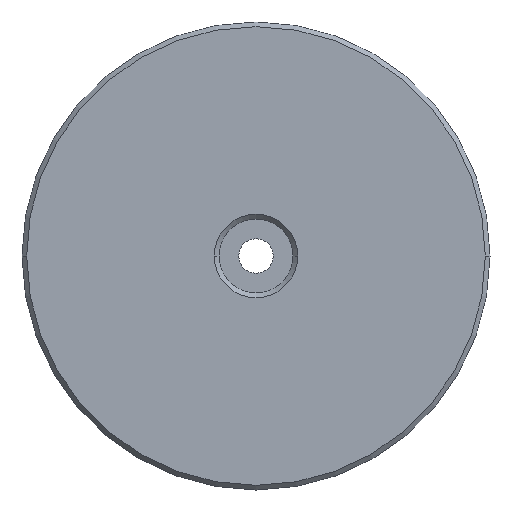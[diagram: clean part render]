
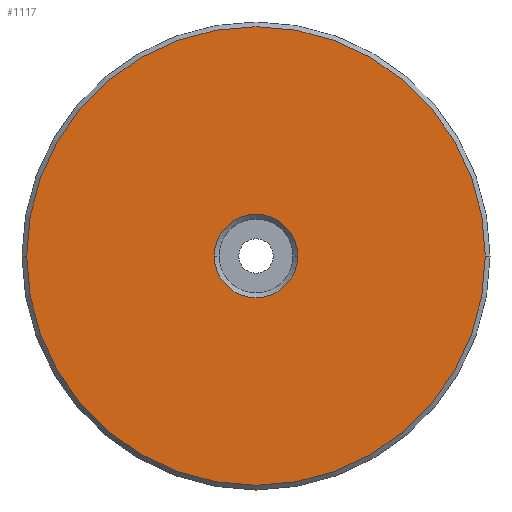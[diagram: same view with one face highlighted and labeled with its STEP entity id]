
A CAD part, front view. The second image highlights one B-rep face of the part: STEP entity #1117.
In plain terms, the highlighted planar face has unit normal (0, -1, 0).
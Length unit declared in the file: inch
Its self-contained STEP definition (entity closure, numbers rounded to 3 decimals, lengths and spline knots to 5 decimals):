
#47=CARTESIAN_POINT('',(0.,-0.125,0.));
#48=DIRECTION('',(0.,1.,0.));
#49=DIRECTION('',(1.,0.,0.));
#50=AXIS2_PLACEMENT_3D('',#47,#48,#49);
#52=CARTESIAN_POINT('',(0.,-0.125,0.));
#53=DIRECTION('',(0.,1.,0.));
#54=DIRECTION('',(-1.,0.,0.));
#55=AXIS2_PLACEMENT_3D('',#52,#53,#54);
#57=CARTESIAN_POINT('',(0.,-0.125,0.));
#58=DIRECTION('',(0.,-1.,0.));
#59=DIRECTION('',(1.,0.,0.));
#60=AXIS2_PLACEMENT_3D('',#57,#58,#59);
#62=CARTESIAN_POINT('',(0.,-0.125,0.));
#63=DIRECTION('',(0.,-1.,0.));
#64=DIRECTION('',(-1.,0.,0.));
#65=AXIS2_PLACEMENT_3D('',#62,#63,#64);
#985=CARTESIAN_POINT('',(0.1335,-0.125,0.));
#986=CARTESIAN_POINT('',(-0.1335,-0.125,0.));
#987=VERTEX_POINT('',#985);
#988=VERTEX_POINT('',#986);
#993=CARTESIAN_POINT('',(0.735,-0.125,0.));
#994=CARTESIAN_POINT('',(-0.735,-0.125,0.));
#995=VERTEX_POINT('',#993);
#996=VERTEX_POINT('',#994);
#1101=CARTESIAN_POINT('',(0.,-0.125,0.));
#1102=DIRECTION('',(0.,1.,0.));
#1103=DIRECTION('',(1.,0.,0.));
#1104=AXIS2_PLACEMENT_3D('',#1101,#1102,#1103);
#1105=PLANE('',#1104);
#1107=ORIENTED_EDGE('',*,*,#1106,.F.);
#1108=ORIENTED_EDGE('',*,*,#1091,.F.);
#1109=EDGE_LOOP('',(#1107,#1108));
#1110=FACE_OUTER_BOUND('',#1109,.F.);
#1112=ORIENTED_EDGE('',*,*,#1111,.F.);
#1114=ORIENTED_EDGE('',*,*,#1113,.F.);
#1115=EDGE_LOOP('',(#1112,#1114));
#1116=FACE_BOUND('',#1115,.F.);
#1117=ADVANCED_FACE('',(#1110,#1116),#1105,.F.);
#51=CIRCLE('',#50,0.1335);
#56=CIRCLE('',#55,0.1335);
#61=CIRCLE('',#60,0.735);
#66=CIRCLE('',#65,0.735);
#1091=EDGE_CURVE('',#996,#995,#66,.T.);
#1106=EDGE_CURVE('',#995,#996,#61,.T.);
#1111=EDGE_CURVE('',#987,#988,#51,.T.);
#1113=EDGE_CURVE('',#988,#987,#56,.T.);
